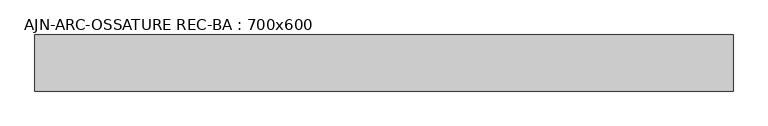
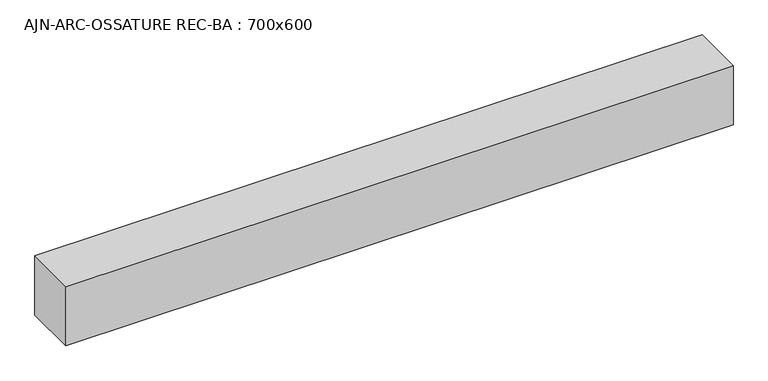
"""IFC4 building model written with IfcOpenShell, lengths in millimetres: beam geometry, AJN-ARC-OSSATURE REC-BA : 700x600."""

from ifc_helpers import new_model, si_unit, frame, origin, place, context, project, spatial, polyline, outline, extrude, source, transform, mapped, element, save


def ajn_arc_ossature_rec_ba_700x600_d1e0036f(model_context):
    return source(origin(), model_context, "Body", "SweptSolid", [
        extrude(outline(polyline([(3737.6982266, 300.0), (3737.6982266, -300.0), (-3727.5612875, -300.0), (-3727.5612875, 300.0), (3737.6982266, 300.0)])), frame((0.0, 0.0, -350.0), z_axis=(0.0, 0.0, 1.0), x_axis=(1.0, 0.0, 0.0)), (0.0, 0.0, 1.0), 700.0),
    ])


if __name__ == "__main__":
    model = new_model("IFC4")
    model_context = context("Model", 3, world=origin())
    ifc_project = project(units=[si_unit("LENGTHUNIT", "METRE", prefix="MILLI")], contexts=[model_context])
    site = spatial("IfcSite", under=ifc_project)
    building = spatial("IfcBuilding", under=site)
    placement = place(None, origin())
    ajn_arc_ossature_rec_ba_700x600_shape = ajn_arc_ossature_rec_ba_700x600_d1e0036f(model_context)
    element("IfcBeam", 1, ObjectType="AJN-ARC-OSSATURE REC-BA : 700x600", at=placement, inside=building, context=model_context, shape_type="MappedRepresentation", body=[
        mapped(ajn_arc_ossature_rec_ba_700x600_shape, transform((0.0, 0.0, 0.0), x_axis=(1.0, 0.0, 0.0), y_axis=(0.0, 1.0, 0.0), z_axis=(0.0, 0.0, 1.0))),
    ])
    save(model, "model.ifc")
